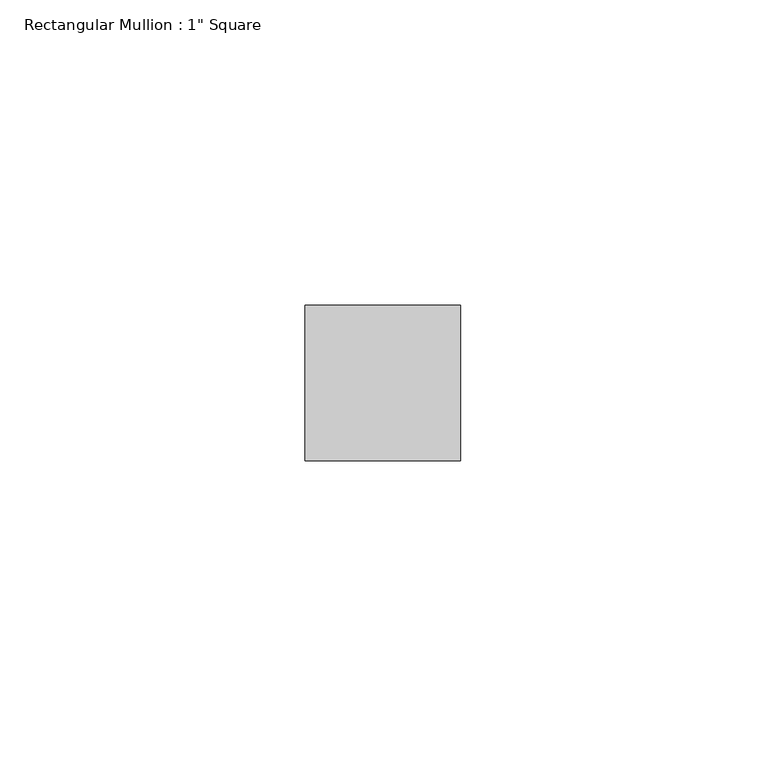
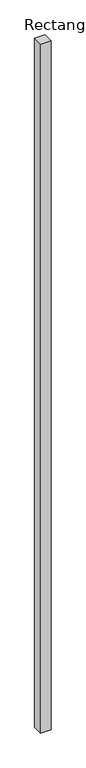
"""IFC4 building model written with IfcOpenShell, lengths in millimetres: member geometry."""

from ifc_helpers import new_model, si_unit, frame, origin, place, context, project, spatial, polyline, outline, extrude, source, transform, mapped, element, save


def member_559eaf3f(model_context):
    return source(origin(), model_context, "Body", "SweptSolid", [
        extrude(outline(polyline([(12.7, 12.7), (12.7, -12.7), (-12.7, -12.7), (-12.7, 12.7), (12.7, 12.7)])), frame((0.0, 0.0, -1791.9), z_axis=(0.0, 0.0, 1.0), x_axis=(1.0, 0.0, 0.0)), (0.0, 0.0, 1.0), 1791.9),
    ])


if __name__ == "__main__":
    model = new_model("IFC4")
    model_context = context("Model", 3, world=origin())
    ifc_project = project(units=[si_unit("LENGTHUNIT", "METRE", prefix="MILLI")], contexts=[model_context])
    site = spatial("IfcSite", under=ifc_project)
    building = spatial("IfcBuilding", under=site)
    placement = place(None, origin())
    member_shape = member_559eaf3f(model_context)
    element("IfcMember", 1, ObjectType="Rectangular Mullion : 1\" Square", at=placement, inside=building, context=model_context, shape_type="MappedRepresentation", body=[
        mapped(member_shape, transform((0.0, 0.0, 0.0), x_axis=(1.0, 0.0, 0.0), y_axis=(0.0, 1.0, 0.0), z_axis=(0.0, 0.0, 1.0))),
    ])
    save(model, "model.ifc")
